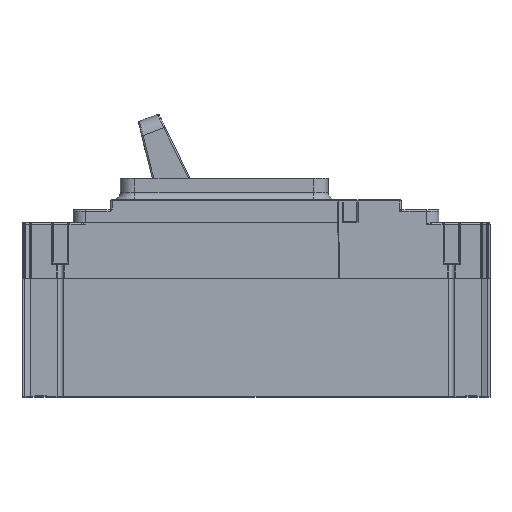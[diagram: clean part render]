
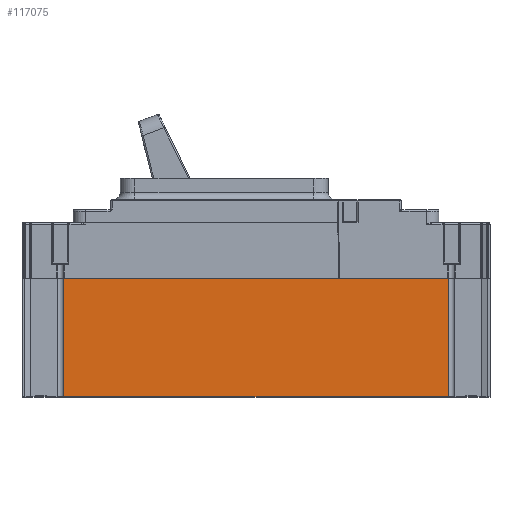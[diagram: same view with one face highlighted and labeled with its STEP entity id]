
A CAD part, top view. The second image highlights one B-rep face of the part: STEP entity #117075.
In plain terms, the highlighted planar face has unit normal (0, 0, 1).
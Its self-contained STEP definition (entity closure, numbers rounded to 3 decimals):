
#109997=DIRECTION('',(0.,1.,0.));
#109998=VECTOR('',#109997,81.);
#109999=CARTESIAN_POINT('',(131.368,-81.,105.));
#110000=LINE('',#109999,#109998);
#110005=DIRECTION('',(1.,0.,0.));
#110006=VECTOR('',#110005,262.735);
#110007=CARTESIAN_POINT('',(-131.368,0.,105.));
#110008=LINE('',#110007,#110006);
#110009=DIRECTION('',(-1.,0.,0.));
#110010=VECTOR('',#110009,262.735);
#110011=CARTESIAN_POINT('',(131.368,-81.,105.));
#110012=LINE('',#110011,#110010);
#110017=DIRECTION('',(0.,-1.,0.));
#110018=VECTOR('',#110017,81.);
#110019=CARTESIAN_POINT('',(-131.368,0.,105.));
#110020=LINE('',#110019,#110018);
#112558=CARTESIAN_POINT('',(-131.368,-81.,105.));
#112559=VERTEX_POINT('',#112558);
#112560=CARTESIAN_POINT('',(131.368,-81.,105.));
#112561=VERTEX_POINT('',#112560);
#112926=CARTESIAN_POINT('',(131.368,0.,105.));
#112927=VERTEX_POINT('',#112926);
#112928=CARTESIAN_POINT('',(-131.368,0.,105.));
#112929=VERTEX_POINT('',#112928);
#117063=CARTESIAN_POINT('',(0.,0.,105.));
#117064=DIRECTION('',(0.,0.,1.));
#117065=DIRECTION('',(1.,0.,0.));
#117066=AXIS2_PLACEMENT_3D('',#117063,#117064,#117065);
#117067=PLANE('',#117066);
#117069=ORIENTED_EDGE('',*,*,#117068,.F.);
#117070=ORIENTED_EDGE('',*,*,#114129,.T.);
#117071=ORIENTED_EDGE('',*,*,#117056,.F.);
#117072=ORIENTED_EDGE('',*,*,#115591,.T.);
#117073=EDGE_LOOP('',(#117069,#117070,#117071,#117072));
#117074=FACE_OUTER_BOUND('',#117073,.F.);
#117075=ADVANCED_FACE('',(#117074),#117067,.T.);
#114129=EDGE_CURVE('',#112929,#112927,#110008,.T.);
#115591=EDGE_CURVE('',#112561,#112559,#110012,.T.);
#117056=EDGE_CURVE('',#112561,#112927,#110000,.T.);
#117068=EDGE_CURVE('',#112929,#112559,#110020,.T.);
